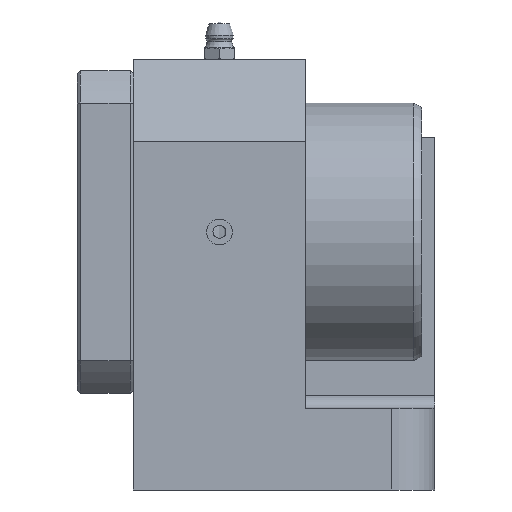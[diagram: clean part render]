
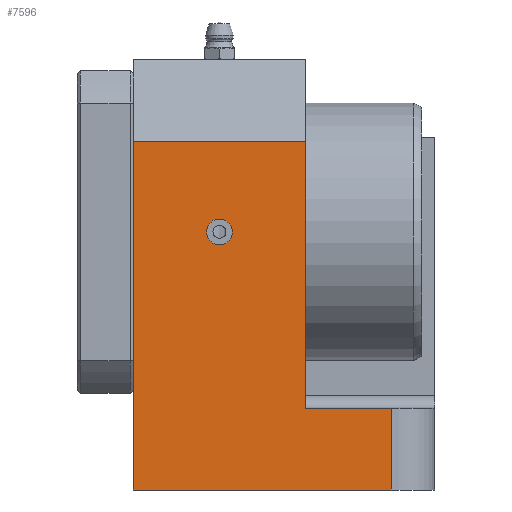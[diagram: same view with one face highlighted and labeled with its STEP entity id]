
A CAD part, front view. The second image highlights one B-rep face of the part: STEP entity #7596.
In plain terms, the highlighted planar face has unit normal (0, -1, 0).
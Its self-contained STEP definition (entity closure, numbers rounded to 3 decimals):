
#7463=CARTESIAN_POINT('',(60.,-110.0,19.));
#7464=VERTEX_POINT('',#7463);
#7472=CARTESIAN_POINT('',(60.,-110.0,0.0));
#7473=VERTEX_POINT('',#7472);
#7474=CARTESIAN_POINT('',(60.,-110.0,19.));
#7475=DIRECTION('',(0.0,0.0,-1.0));
#7476=VECTOR('',#7475,19.);
#7477=LINE('',#7474,#7476);
#7478=EDGE_CURVE('',#7464,#7473,#7477,.T.);
#7499=CARTESIAN_POINT('',(0.0,-110.0,0.0));
#7500=VERTEX_POINT('',#7499);
#7501=CARTESIAN_POINT('',(0.0,-110.0,0.0));
#7502=DIRECTION('',(1.0,0.0,0.0));
#7503=VECTOR('',#7502,60.);
#7504=LINE('',#7501,#7503);
#7505=EDGE_CURVE('',#7500,#7473,#7504,.T.);
#7546=CARTESIAN_POINT('',(70.,-110.0,0.0));
#7547=DIRECTION('',(0.0,-1.0,0.0));
#7548=DIRECTION('',(0.0,0.0,-1.0));
#7549=AXIS2_PLACEMENT_3D('',#7546,#7547,#7548);
#7550=PLANE('',#7549);
#7551=ORIENTED_EDGE('',*,*,#7478,.F.);
#7552=CARTESIAN_POINT('',(40.0,-110.0,19.));
#7553=VERTEX_POINT('',#7552);
#7554=CARTESIAN_POINT('',(60.,-110.0,19.));
#7555=DIRECTION('',(-1.0,0.0,0.0));
#7556=VECTOR('',#7555,20.);
#7557=LINE('',#7554,#7556);
#7558=EDGE_CURVE('',#7464,#7553,#7557,.T.);
#7559=ORIENTED_EDGE('',*,*,#7558,.T.);
#7560=CARTESIAN_POINT('',(40.0,-110.0,81.0));
#7561=VERTEX_POINT('',#7560);
#7562=CARTESIAN_POINT('',(40.0,-110.0,19.));
#7563=DIRECTION('',(0.0,0.0,1.0));
#7564=VECTOR('',#7563,62.);
#7565=LINE('',#7562,#7564);
#7566=EDGE_CURVE('',#7553,#7561,#7565,.T.);
#7567=ORIENTED_EDGE('',*,*,#7566,.T.);
#7568=CARTESIAN_POINT('',(0.0,-110.0,81.0));
#7569=VERTEX_POINT('',#7568);
#7570=CARTESIAN_POINT('',(0.0,-110.0,81.0));
#7571=DIRECTION('',(1.0,0.0,0.0));
#7572=VECTOR('',#7571,40.0);
#7573=LINE('',#7570,#7572);
#7574=EDGE_CURVE('',#7569,#7561,#7573,.T.);
#7575=ORIENTED_EDGE('',*,*,#7574,.F.);
#7576=CARTESIAN_POINT('',(0.0,-110.0,0.0));
#7577=DIRECTION('',(0.0,0.0,1.0));
#7578=VECTOR('',#7577,81.0);
#7579=LINE('',#7576,#7578);
#7580=EDGE_CURVE('',#7500,#7569,#7579,.T.);
#7581=ORIENTED_EDGE('',*,*,#7580,.F.);
#7582=ORIENTED_EDGE('',*,*,#7505,.T.);
#7583=EDGE_LOOP('',(#7551,#7559,#7567,#7575,#7581,#7582));
#7584=FACE_OUTER_BOUND('',#7583,.T.);
#7585=CARTESIAN_POINT('',(23.,-110.0,60.0));
#7586=VERTEX_POINT('',#7585);
#7587=CARTESIAN_POINT('',(20.0,-110.0,60.0));
#7588=DIRECTION('',(0.0,1.0,0.0));
#7589=DIRECTION('',(1.0,0.0,0.0));
#7590=AXIS2_PLACEMENT_3D('',#7587,#7588,#7589);
#7591=CIRCLE('',#7590,3.);
#7592=EDGE_CURVE('',#7586,#7586,#7591,.T.);
#7593=ORIENTED_EDGE('',*,*,#7592,.T.);
#7594=EDGE_LOOP('',(#7593));
#7595=FACE_BOUND('',#7594,.T.);
#7596=ADVANCED_FACE('',(#7584,#7595),#7550,.T.);
